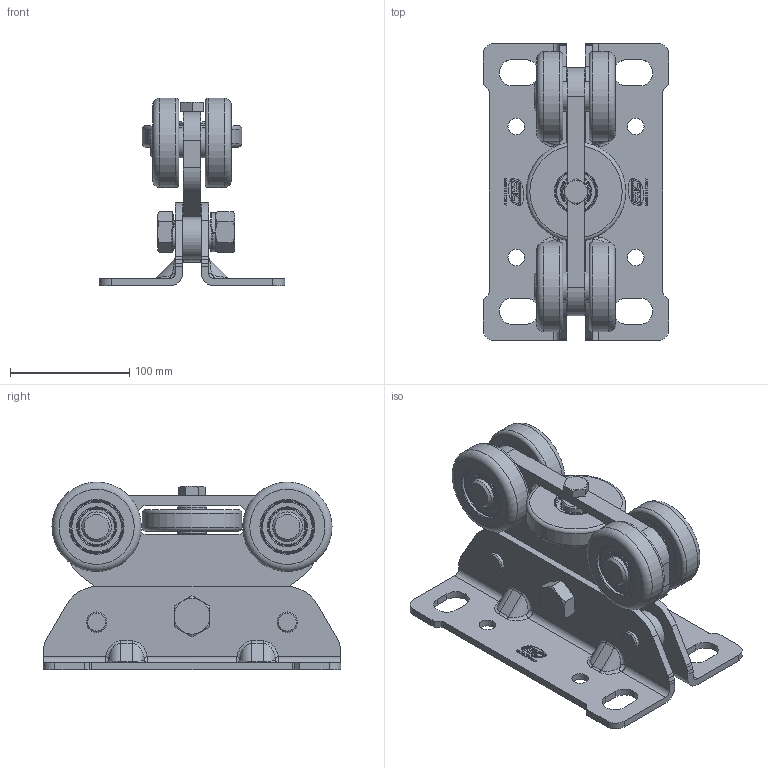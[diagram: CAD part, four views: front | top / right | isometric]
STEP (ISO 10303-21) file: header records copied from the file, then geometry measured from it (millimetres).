
FILE_DESCRIPTION(/* description */ ('Unknown'),/* implementation_level */ '2;1');
FILE_NAME(/* name */ 'FAC_VD1100.075',/* time_stamp */ '2022-12-14T09:36:45+01:00',/* author */ ('Unknown'),/* organization */ ('Unknown'),/* preprocessor_version */ 'ST-DEVELOPER v18.102',/* originating_system */ 'Solid Edge',/* authorisation */ 'Unknown');
FILE_SCHEMA (('AUTOMOTIVE_DESIGN {1 0 10303 214 3 1 1}'));
Length unit declared in the file: millimetre
Products named in the file (25): VD1100.075_04; 900 X01 1010_06; 410 N0094_02; 400 Q3143_03; 400 Q3147_03; 410 N02_03; 410 D03_03; 210 H02_02; 530 S10_00; 520 S07_04; 6304 2RS; AnelliIntEst 6304 2RS; Guarnizione 6304 2RS; Sfera D=7.94; 210 G64_06; Vite TE M12 L60 FilTot; Dado M20 M; 210 B19_01; 530 S11_00; 520 S08_01; 6203 2RS; AnelliIntEst 6203 2RS; Guarnizione 6203 2RS; Sfera D=6.74; Rosetta UNI 1751 Grower M20_oa_0
Assembly tree (50 placements, depth 5):
  VD1100.075_04
    900 X01 1010_06
      410 N0094_02
        400 Q3143_03  x2
        400 Q3147_03  x2
      410 N02_03
      410 D03_03  x4
      210 H02_02  x2
      530 S10_00  x4
        520 S07_04
        6304 2RS
          AnelliIntEst 6304 2RS
          Guarnizione 6304 2RS  x2
          Sfera D=7.94  x8
      210 G64_06  x2
      Vite TE M12 L60 FilTot
      Dado M20 M
      210 B19_01
      530 S11_00
        520 S08_01
        6203 2RS
          AnelliIntEst 6203 2RS
          Guarnizione 6203 2RS  x2
          Sfera D=6.74  x8
      Rosetta UNI 1751 Grower M20_oa_0
Bounding box: 155.8 x 250 x 157.5 mm (x, y, z)
Volume: 1067050.7 mm3; surface area: 356231.9 mm2
Topology: 82 solids, 82 shells, 1119 faces, 2588 edges, 1663 vertices
Faces by surface type: plane 507, cylinder 269, cone 131, bspline 106, torus 66, sphere 40
Full cylindrical faces by diameter (mm): 10.2 x2, 12 x4, 14 x4, 17 x7, 17.1 x4, 17.294 x1, 18.9 x1, 20 x11, 20.1 x2, 21 x4, 23.9 x4, 24 x2, 24.522 x2, 25 x6, 29.6 x16, 29.9 x1, 30.465 x8, 33.1 x2, 35 x2, 35.4 x4, 35.5 x1, 40 x2, 42.4 x8, 45 x5, 45.6 x16, 52 x8, 57.5 x4, 75 x4, 83.5 x1
Entity records: 18814 total; most frequent: CARTESIAN_POINT 6279, DIRECTION 2197, ORIENTED_EDGE 2192, EDGE_CURVE 1096, AXIS2_PLACEMENT_3D 891, VERTEX_POINT 778, FACE_BOUND 740, EDGE_LOOP 736
